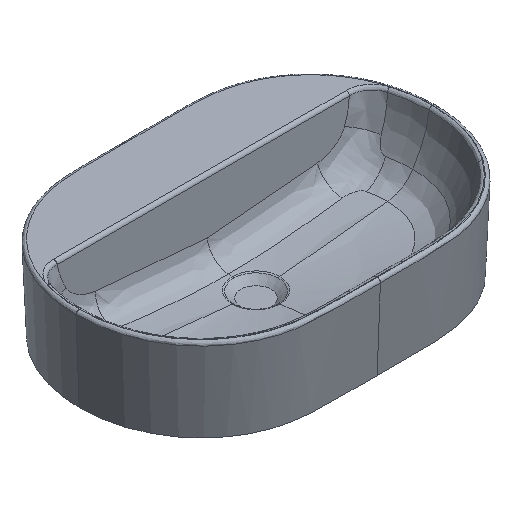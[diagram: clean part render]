
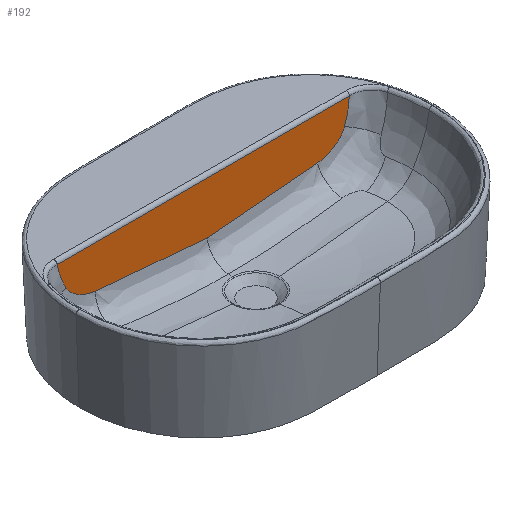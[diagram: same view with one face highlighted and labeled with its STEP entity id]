
A CAD part, isometric view. The second image highlights one B-rep face of the part: STEP entity #192.
In plain terms, the highlighted planar face has unit normal (0, -0.996, 0.087).
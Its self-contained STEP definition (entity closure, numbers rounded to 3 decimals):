
#192=ADVANCED_FACE('',(#280),#260,.T.);
#260=PLANE('',#1222);
#280=FACE_OUTER_BOUND('',#348,.T.);
#348=EDGE_LOOP('',(#522,#523,#524,#525,#526,#527,#528));
#427=LINE('',#2112,#455);
#455=VECTOR('',#1278,1.);
#522=ORIENTED_EDGE('',*,*,#966,.T.);
#523=ORIENTED_EDGE('',*,*,#967,.T.);
#524=ORIENTED_EDGE('',*,*,#968,.T.);
#525=ORIENTED_EDGE('',*,*,#969,.T.);
#526=ORIENTED_EDGE('',*,*,#962,.F.);
#527=ORIENTED_EDGE('',*,*,#970,.F.);
#528=ORIENTED_EDGE('',*,*,#971,.F.);
#846=VERTEX_POINT('',#2001);
#847=VERTEX_POINT('',#2002);
#850=VERTEX_POINT('',#2082);
#851=VERTEX_POINT('',#2083);
#852=VERTEX_POINT('',#2106);
#853=VERTEX_POINT('',#2111);
#854=VERTEX_POINT('',#2139);
#962=EDGE_CURVE('',#846,#847,#1126,.T.);
#966=EDGE_CURVE('',#850,#851,#1130,.T.);
#967=EDGE_CURVE('',#851,#852,#1131,.T.);
#968=EDGE_CURVE('',#852,#853,#1132,.T.);
#969=EDGE_CURVE('',#853,#847,#427,.T.);
#970=EDGE_CURVE('',#854,#846,#1133,.T.);
#971=EDGE_CURVE('',#850,#854,#1134,.T.);
#1126=B_SPLINE_CURVE_WITH_KNOTS('',3,(#1997,#1998,#1999,#2000),
 .UNSPECIFIED.,.F.,.F.,(4,4),(0.,1.),.UNSPECIFIED.);
#1130=B_SPLINE_CURVE_WITH_KNOTS('',3,(#2074,#2075,#2076,#2077,#2078,#2079,
#2080,#2081),.UNSPECIFIED.,.F.,.F.,(4,2,2,4),(0.,0.25,0.5,1.),
 .UNSPECIFIED.);
#1131=B_SPLINE_CURVE_WITH_KNOTS('',3,(#2084,#2085,#2086,#2087,#2088,#2089,
#2090,#2091,#2092,#2093,#2094,#2095,#2096,#2097,#2098,#2099,#2100,#2101,
#2102,#2103,#2104,#2105),.UNSPECIFIED.,.F.,.F.,(4,1,2,2,1,1,2,2,1,1,1,2,
2,4),(0.,0.125,0.188,0.25,0.375,0.438,0.469,
0.5,0.625,0.687,0.719,
0.734,0.75,1.),.UNSPECIFIED.);
#1132=B_SPLINE_CURVE_WITH_KNOTS('',3,(#2107,#2108,#2109,#2110),
 .UNSPECIFIED.,.F.,.F.,(4,4),(0.,1.),.UNSPECIFIED.);
#1133=B_SPLINE_CURVE_WITH_KNOTS('',3,(#2113,#2114,#2115,#2116,#2117,#2118,
#2119,#2120,#2121,#2122,#2123,#2124,#2125,#2126,#2127,#2128,#2129,#2130,
#2131,#2132,#2133,#2134,#2135,#2136,#2137,#2138),.UNSPECIFIED.,.F.,.F.,
(4,2,2,2,2,2,2,2,2,2,2,2,4),(0.,0.25,0.375,0.438,0.469,
0.5,0.625,0.688,0.719,
0.75,0.813,0.875,1.),.UNSPECIFIED.);
#1134=B_SPLINE_CURVE_WITH_KNOTS('',3,(#2140,#2141,#2142,#2143,#2144,#2145,
#2146,#2147),.UNSPECIFIED.,.F.,.F.,(4,2,2,4),(0.,0.25,0.5,1.),
 .UNSPECIFIED.);
#1222=AXIS2_PLACEMENT_3D('',#2148,#1279,#1280);
#1278=DIRECTION('',(-1.,0.,0.));
#1279=DIRECTION('',(0.,-0.996,0.087));
#1280=DIRECTION('',(0.,0.087,0.996));
#1997=CARTESIAN_POINT('',(-212.776,77.664,117.796));
#1998=CARTESIAN_POINT('',(-218.071,78.607,128.574));
#1999=CARTESIAN_POINT('',(-221.538,79.623,140.192));
#2000=CARTESIAN_POINT('',(-223.078,80.651,151.936));
#2001=CARTESIAN_POINT('',(-212.776,77.664,117.796));
#2002=CARTESIAN_POINT('',(-223.078,80.651,151.936));
#2074=CARTESIAN_POINT('',(0.,74.26,78.889));
#2075=CARTESIAN_POINT('',(14.194,74.26,78.889));
#2076=CARTESIAN_POINT('',(28.374,74.315,79.52));
#2077=CARTESIAN_POINT('',(56.703,74.465,81.238));
#2078=CARTESIAN_POINT('',(70.853,74.561,82.331));
#2079=CARTESIAN_POINT('',(113.266,74.883,86.013));
#2080=CARTESIAN_POINT('',(141.482,75.147,89.027));
#2081=CARTESIAN_POINT('',(169.648,75.452,92.511));
#2082=CARTESIAN_POINT('',(0.,74.26,78.889));
#2083=CARTESIAN_POINT('',(169.648,75.452,92.511));
#2084=CARTESIAN_POINT('',(169.648,75.452,92.511));
#2085=CARTESIAN_POINT('',(171.785,75.475,92.775));
#2086=CARTESIAN_POINT('',(174.974,75.522,93.313));
#2087=CARTESIAN_POINT('',(178.138,75.587,94.063));
#2088=CARTESIAN_POINT('',(180.243,75.635,94.609));
#2089=CARTESIAN_POINT('',(181.264,75.66,94.898));
#2090=CARTESIAN_POINT('',(184.488,75.747,95.885));
#2091=CARTESIAN_POINT('',(187.6,75.844,96.993));
#2092=CARTESIAN_POINT('',(191.034,75.975,98.499));
#2093=CARTESIAN_POINT('',(192.464,76.036,99.19));
#2094=CARTESIAN_POINT('',(193.408,76.077,99.661));
#2095=CARTESIAN_POINT('',(193.828,76.096,99.876));
#2096=CARTESIAN_POINT('',(196.376,76.214,101.228));
#2097=CARTESIAN_POINT('',(199.232,76.366,102.964));
#2098=CARTESIAN_POINT('',(202.213,76.561,105.189));
#2099=CARTESIAN_POINT('',(203.616,76.662,106.35));
#2100=CARTESIAN_POINT('',(204.198,76.707,106.859));
#2101=CARTESIAN_POINT('',(204.582,76.737,107.2));
#2102=CARTESIAN_POINT('',(204.748,76.75,107.35));
#2103=CARTESIAN_POINT('',(208.347,77.04,110.667));
#2104=CARTESIAN_POINT('',(210.952,77.339,114.084));
#2105=CARTESIAN_POINT('',(212.776,77.664,117.796));
#2106=CARTESIAN_POINT('',(212.776,77.664,117.796));
#2107=CARTESIAN_POINT('',(212.776,77.664,117.796));
#2108=CARTESIAN_POINT('',(218.071,78.607,128.574));
#2109=CARTESIAN_POINT('',(221.538,79.623,140.192));
#2110=CARTESIAN_POINT('',(223.078,80.651,151.936));
#2111=CARTESIAN_POINT('',(223.078,80.651,151.936));
#2112=CARTESIAN_POINT('',(0.,80.651,151.936));
#2113=CARTESIAN_POINT('',(-169.648,75.452,92.511));
#2114=CARTESIAN_POINT('',(-173.903,75.496,93.037));
#2115=CARTESIAN_POINT('',(-178.097,75.575,93.928));
#2116=CARTESIAN_POINT('',(-184.459,75.746,95.876));
#2117=CARTESIAN_POINT('',(-186.519,75.81,96.607));
#2118=CARTESIAN_POINT('',(-189.519,75.917,97.834));
#2119=CARTESIAN_POINT('',(-190.504,75.955,98.265));
#2120=CARTESIAN_POINT('',(-191.959,76.014,98.945));
#2121=CARTESIAN_POINT('',(-192.44,76.035,99.178));
#2122=CARTESIAN_POINT('',(-193.394,76.076,99.654));
#2123=CARTESIAN_POINT('',(-193.829,76.096,99.877));
#2124=CARTESIAN_POINT('',(-196.371,76.214,101.226));
#2125=CARTESIAN_POINT('',(-198.28,76.315,102.384));
#2126=CARTESIAN_POINT('',(-200.94,76.477,104.236));
#2127=CARTESIAN_POINT('',(-201.792,76.533,104.872));
#2128=CARTESIAN_POINT('',(-203.018,76.619,105.854));
#2129=CARTESIAN_POINT('',(-203.418,76.648,106.186));
#2130=CARTESIAN_POINT('',(-204.201,76.707,106.859));
#2131=CARTESIAN_POINT('',(-204.544,76.733,107.162));
#2132=CARTESIAN_POINT('',(-205.791,76.834,108.312));
#2133=CARTESIAN_POINT('',(-206.571,76.903,109.092));
#2134=CARTESIAN_POINT('',(-208.031,77.041,110.681));
#2135=CARTESIAN_POINT('',(-208.679,77.108,111.447));
#2136=CARTESIAN_POINT('',(-210.676,77.334,114.039));
#2137=CARTESIAN_POINT('',(-211.83,77.496,115.871));
#2138=CARTESIAN_POINT('',(-212.776,77.664,117.796));
#2139=CARTESIAN_POINT('',(-169.648,75.452,92.511));
#2140=CARTESIAN_POINT('',(0.,74.26,78.889));
#2141=CARTESIAN_POINT('',(-14.194,74.26,78.889));
#2142=CARTESIAN_POINT('',(-28.374,74.315,79.52));
#2143=CARTESIAN_POINT('',(-56.703,74.465,81.238));
#2144=CARTESIAN_POINT('',(-70.853,74.561,82.33));
#2145=CARTESIAN_POINT('',(-113.266,74.883,86.013));
#2146=CARTESIAN_POINT('',(-141.482,75.147,89.027));
#2147=CARTESIAN_POINT('',(-169.648,75.452,92.511));
#2148=CARTESIAN_POINT('',(0.,80.,144.5));
